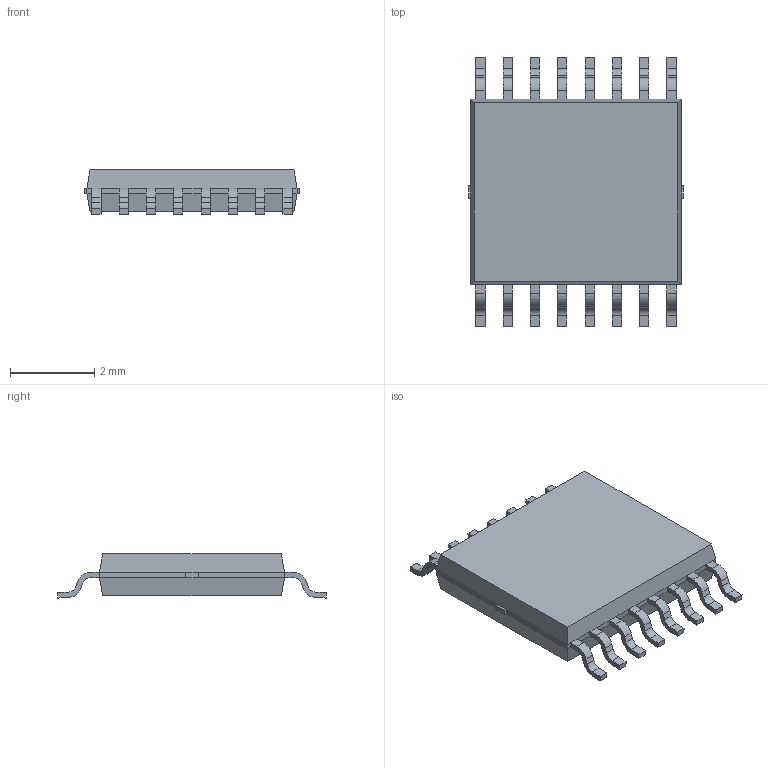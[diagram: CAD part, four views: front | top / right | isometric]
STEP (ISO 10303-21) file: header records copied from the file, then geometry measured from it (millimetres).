
FILE_DESCRIPTION (( 'STEP AP214' ), '1' );
FILE_NAME ('LP16.STEP', '2017-02-17T15:34:10', ( '' ), ( '' ), 'SwSTEP 2.0', 'SolidWorks 2015', '' );
FILE_SCHEMA (( 'AUTOMOTIVE_DESIGN' ));
Length unit declared in the file: millimetre
Products named in the file (1): LP16
Bounding box: 5.1 x 6.4 x 1.05 mm (x, y, z)
Volume: 21.9 mm3; surface area: 73.7 mm2
Topology: 1 solids, 1 shells, 251 faces, 676 edges, 428 vertices
Faces by surface type: plane 187, cylinder 64
Entity records: 8120 total; most frequent: CARTESIAN_POINT 1356, ORIENTED_EDGE 1352, DIRECTION 1308, EDGE_CURVE 676, LINE 548, VECTOR 548, VERTEX_POINT 428, AXIS2_PLACEMENT_3D 380
